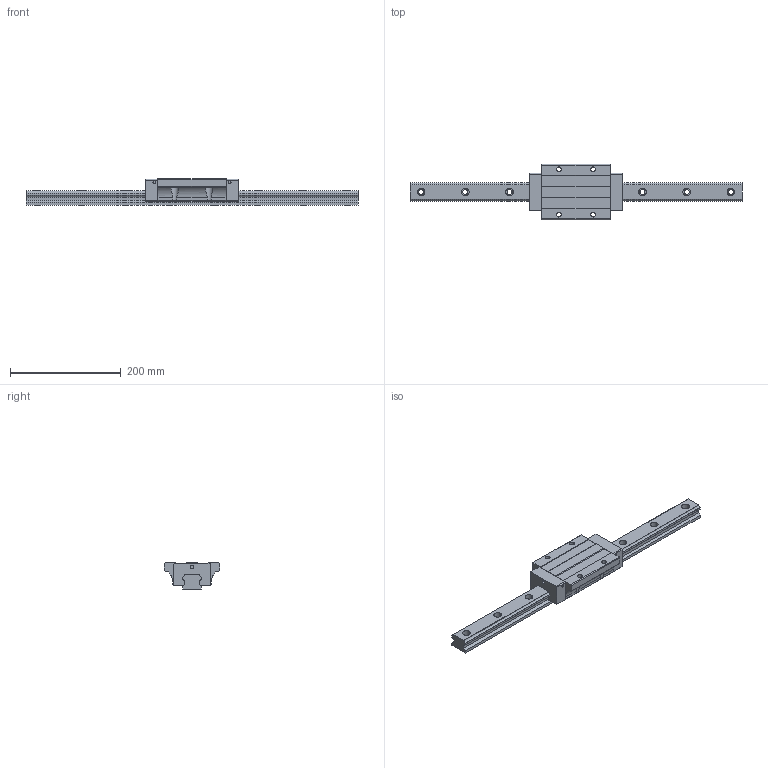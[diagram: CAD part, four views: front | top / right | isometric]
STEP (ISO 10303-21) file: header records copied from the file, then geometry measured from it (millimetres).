
FILE_DESCRIPTION (( 'STEP AP203' ), '1' );
FILE_NAME ('TRH35FE-SZ.STEP', '2024-06-26T06:41:39', ( '' ), ( '' ), 'SwSTEP 2.0', 'SolidWorks 2022', '' );
FILE_SCHEMA (( 'CONFIG_CONTROL_DESIGN' ));
Length unit declared in the file: millimetre
Products named in the file (1): TRH35FE-SZ
Bounding box: 600 x 100 x 48 mm (x, y, z)
Volume: 864413.9 mm3; surface area: 140202.1 mm2
Topology: 2 solids, 2 shells, 212 faces, 580 edges, 386 vertices
Faces by surface type: cylinder 112, plane 100
Entity records: 7449 total; most frequent: CARTESIAN_POINT 1801, DIRECTION 1174, ORIENTED_EDGE 1160, EDGE_CURVE 580, AXIS2_PLACEMENT_3D 409, VERTEX_POINT 386, VECTOR 356, LINE 356
